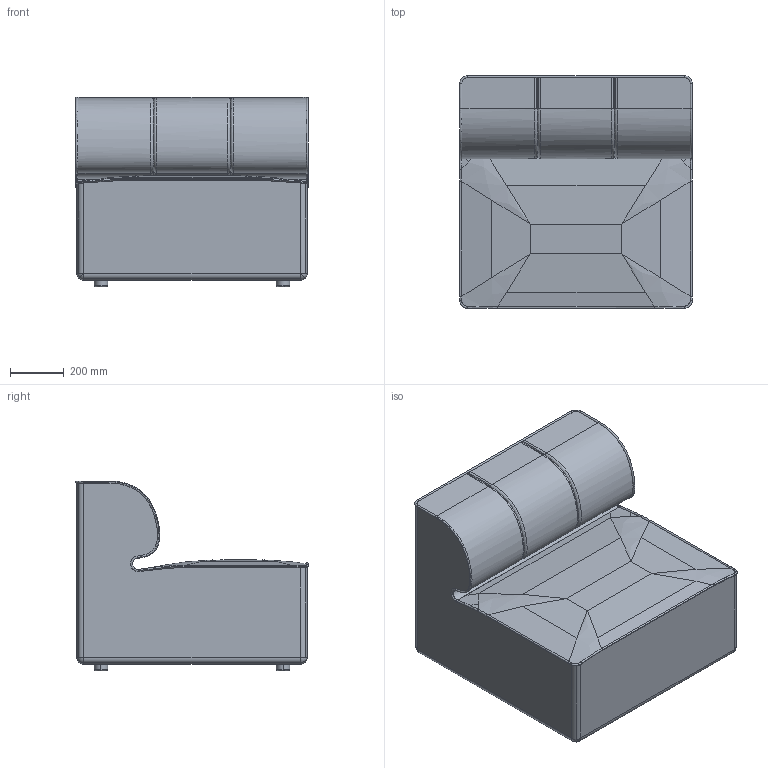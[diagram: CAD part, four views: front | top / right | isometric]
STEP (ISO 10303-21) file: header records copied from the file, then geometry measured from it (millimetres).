
FILE_DESCRIPTION (( 'STEP AP214' ), '1' );
FILE_NAME ('Eave Seamline Modular Sofa 86, Open Section.STEP', '2024-07-03T10:26:51', ( '' ), ( '' ), 'SwSTEP 2.0', 'SolidWorks 2022', '' );
FILE_SCHEMA (( 'AUTOMOTIVE_DESIGN' ));
Length unit declared in the file: millimetre
Products named in the file (1): Eave Seamline Modular Sofa 86, Open Section
Bounding box: 868 x 867.98 x 709 mm (x, y, z)
Volume: 349308572.6 mm3; surface area: 3554725.9 mm2
Topology: 5 solids, 5 shells, 157 faces, 364 edges, 213 vertices
Faces by surface type: cylinder 64, bspline 38, plane 29, torus 18, sphere 8
Entity records: 8847 total; most frequent: CARTESIAN_POINT 5588, ORIENTED_EDGE 720, DIRECTION 560, EDGE_CURVE 360, AXIS2_PLACEMENT_3D 228, VERTEX_POINT 213, EDGE_LOOP 157, FACE_OUTER_BOUND 157
